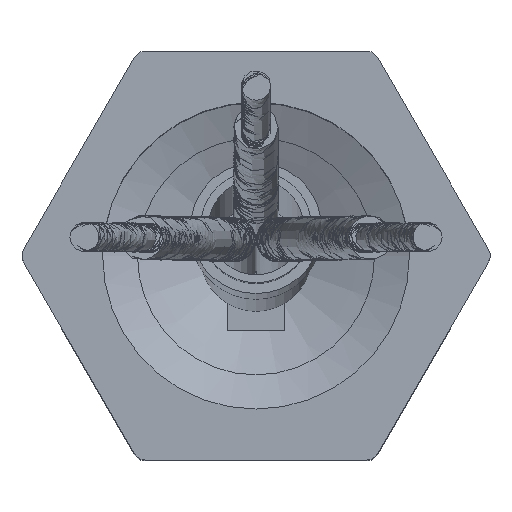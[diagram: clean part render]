
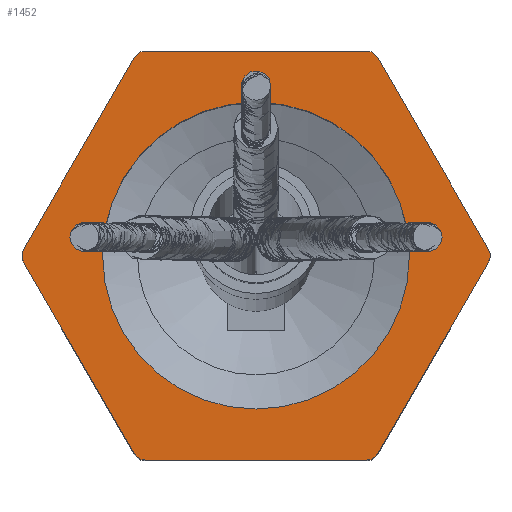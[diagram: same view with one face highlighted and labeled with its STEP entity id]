
A CAD part, top view. The second image highlights one B-rep face of the part: STEP entity #1452.
In plain terms, the highlighted planar face has unit normal (0, 0, 1).
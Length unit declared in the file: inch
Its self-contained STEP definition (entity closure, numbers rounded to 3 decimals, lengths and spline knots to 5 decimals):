
#81=FACE_BOUND('',#357,.T.);
#152=PLANE('',#1717);
#259=FACE_OUTER_BOUND('',#356,.T.);
#356=EDGE_LOOP('',(#1311,#1312,#1313,#1314,#1315,#1316,#1317,#1318,#1319,
#1320,#1321,#1322));
#357=EDGE_LOOP('',(#1323));
#444=CIRCLE('',#1688,0.09375);
#446=CIRCLE('',#1692,0.00781);
#453=CIRCLE('',#1702,0.00781);
#454=CIRCLE('',#1704,0.00781);
#455=CIRCLE('',#1707,0.00781);
#456=CIRCLE('',#1709,0.00781);
#457=CIRCLE('',#1712,0.00781);
#509=LINE('',#3736,#574);
#514=LINE('',#3750,#579);
#519=LINE('',#3764,#584);
#522=LINE('',#3772,#587);
#523=LINE('',#3774,#588);
#524=LINE('',#3776,#589);
#574=VECTOR('',#2091,0.3937);
#579=VECTOR('',#2106,0.3937);
#584=VECTOR('',#2121,0.3937);
#587=VECTOR('',#2132,0.3937);
#588=VECTOR('',#2135,0.3937);
#589=VECTOR('',#2138,0.3937);
#700=VERTEX_POINT('',#3696);
#702=VERTEX_POINT('',#3704);
#703=VERTEX_POINT('',#3705);
#716=VERTEX_POINT('',#3735);
#717=VERTEX_POINT('',#3739);
#718=VERTEX_POINT('',#3743);
#719=VERTEX_POINT('',#3744);
#720=VERTEX_POINT('',#3749);
#721=VERTEX_POINT('',#3753);
#722=VERTEX_POINT('',#3757);
#723=VERTEX_POINT('',#3758);
#724=VERTEX_POINT('',#3763);
#725=VERTEX_POINT('',#3767);
#886=EDGE_CURVE('',#700,#700,#444,.T.);
#890=EDGE_CURVE('',#702,#703,#446,.T.);
#905=EDGE_CURVE('',#716,#703,#509,.T.);
#907=EDGE_CURVE('',#716,#717,#453,.T.);
#909=EDGE_CURVE('',#718,#719,#454,.T.);
#912=EDGE_CURVE('',#720,#719,#514,.T.);
#914=EDGE_CURVE('',#720,#721,#455,.T.);
#916=EDGE_CURVE('',#722,#723,#456,.T.);
#919=EDGE_CURVE('',#724,#723,#519,.T.);
#921=EDGE_CURVE('',#724,#725,#457,.T.);
#923=EDGE_CURVE('',#718,#717,#522,.T.);
#924=EDGE_CURVE('',#722,#721,#523,.T.);
#925=EDGE_CURVE('',#702,#725,#524,.T.);
#1311=ORIENTED_EDGE('',*,*,#890,.F.);
#1312=ORIENTED_EDGE('',*,*,#925,.T.);
#1313=ORIENTED_EDGE('',*,*,#921,.F.);
#1314=ORIENTED_EDGE('',*,*,#919,.T.);
#1315=ORIENTED_EDGE('',*,*,#916,.F.);
#1316=ORIENTED_EDGE('',*,*,#924,.T.);
#1317=ORIENTED_EDGE('',*,*,#914,.F.);
#1318=ORIENTED_EDGE('',*,*,#912,.T.);
#1319=ORIENTED_EDGE('',*,*,#909,.F.);
#1320=ORIENTED_EDGE('',*,*,#923,.T.);
#1321=ORIENTED_EDGE('',*,*,#907,.F.);
#1322=ORIENTED_EDGE('',*,*,#905,.T.);
#1323=ORIENTED_EDGE('',*,*,#886,.T.);
#1452=ADVANCED_FACE('',(#259,#81),#152,.T.);
#1688=AXIS2_PLACEMENT_3D('',#3697,#2055,#2056);
#1692=AXIS2_PLACEMENT_3D('',#3706,#2065,#2066);
#1702=AXIS2_PLACEMENT_3D('',#3740,#2095,#2096);
#1704=AXIS2_PLACEMENT_3D('',#3745,#2100,#2101);
#1707=AXIS2_PLACEMENT_3D('',#3754,#2110,#2111);
#1709=AXIS2_PLACEMENT_3D('',#3759,#2115,#2116);
#1712=AXIS2_PLACEMENT_3D('',#3768,#2125,#2126);
#1717=AXIS2_PLACEMENT_3D('',#3777,#2139,#2140);
#2055=DIRECTION('center_axis',(0.,0.,-1.));
#2056=DIRECTION('ref_axis',(1.,0.,0.));
#2065=DIRECTION('center_axis',(0.,0.,-1.));
#2066=DIRECTION('ref_axis',(0.5,-0.866,0.));
#2091=DIRECTION('',(1.,0.,0.));
#2095=DIRECTION('center_axis',(0.,0.,-1.));
#2096=DIRECTION('ref_axis',(-0.5,-0.866,0.));
#2100=DIRECTION('center_axis',(0.,0.,-1.));
#2101=DIRECTION('ref_axis',(-1.,0.,0.));
#2106=DIRECTION('',(-0.5,-0.866,0.));
#2110=DIRECTION('center_axis',(0.,0.,-1.));
#2111=DIRECTION('ref_axis',(-0.5,0.866,0.));
#2115=DIRECTION('center_axis',(0.,0.,-1.));
#2116=DIRECTION('ref_axis',(0.5,0.866,0.));
#2121=DIRECTION('',(-0.5,0.866,0.));
#2125=DIRECTION('center_axis',(0.,0.,-1.));
#2126=DIRECTION('ref_axis',(1.,0.,0.));
#2132=DIRECTION('',(0.5,-0.866,0.));
#2135=DIRECTION('',(-1.,0.,0.));
#2138=DIRECTION('',(0.5,0.866,0.));
#2139=DIRECTION('center_axis',(0.,0.,1.));
#2140=DIRECTION('ref_axis',(1.,0.,0.));
#3696=CARTESIAN_POINT('',(-0.09375,0.,0.125));
#3697=CARTESIAN_POINT('Origin',(0.,0.,0.125));
#3704=CARTESIAN_POINT('',(0.07442,-0.12109,0.125));
#3705=CARTESIAN_POINT('',(0.06766,-0.125,0.125));
#3706=CARTESIAN_POINT('Origin',(0.06766,-0.11719,0.125));
#3735=CARTESIAN_POINT('',(-0.06766,-0.125,0.125));
#3736=CARTESIAN_POINT('',(-0.07217,-0.125,0.125));
#3739=CARTESIAN_POINT('',(-0.07442,-0.12109,0.125));
#3740=CARTESIAN_POINT('Origin',(-0.06766,-0.11719,0.125));
#3743=CARTESIAN_POINT('',(-0.14208,-0.00391,0.125));
#3744=CARTESIAN_POINT('',(-0.14208,0.00391,0.125));
#3745=CARTESIAN_POINT('Origin',(-0.13532,0.,
0.125));
#3749=CARTESIAN_POINT('',(-0.07442,0.12109,0.125));
#3750=CARTESIAN_POINT('',(-0.07217,0.125,0.125));
#3753=CARTESIAN_POINT('',(-0.06766,0.125,0.125));
#3754=CARTESIAN_POINT('Origin',(-0.06766,0.11719,0.125));
#3757=CARTESIAN_POINT('',(0.06766,0.125,0.125));
#3758=CARTESIAN_POINT('',(0.07442,0.12109,0.125));
#3759=CARTESIAN_POINT('Origin',(0.06766,0.11719,0.125));
#3763=CARTESIAN_POINT('',(0.14208,0.00391,0.125));
#3764=CARTESIAN_POINT('',(0.14434,0.,0.125));
#3767=CARTESIAN_POINT('',(0.14208,-0.00391,0.125));
#3768=CARTESIAN_POINT('Origin',(0.13532,0.,
0.125));
#3772=CARTESIAN_POINT('',(-0.14434,0.,0.125));
#3774=CARTESIAN_POINT('',(0.07217,0.125,0.125));
#3776=CARTESIAN_POINT('',(0.07217,-0.125,0.125));
#3777=CARTESIAN_POINT('Origin',(0.,0.,
0.125));
